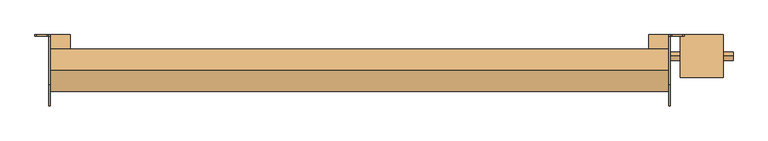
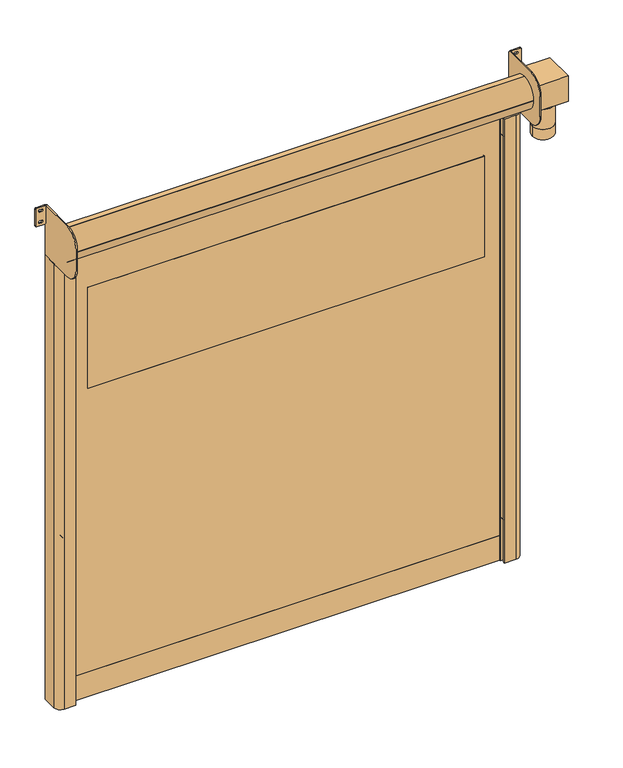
"""IFC4 building model written with IfcOpenShell, lengths in millimetres: door geometry, DO_WPB_Dynamicroll_BMP : Dynamicroll One."""

import ifcopenshell
import ifcopenshell.guid

model = None  # the IFC model being written
_history = None  # IfcOwnerHistory: only IFC2X3 demands one
_inside = {}  # id of a spatial element -> (the spatial element, [elements in it])
_under = {}  # id of a project, library or spatial element -> (it, [spatial elements below it])
_declared = {}  # id of a project -> (the project, [libraries it declares])
_typed = {}  # id of a type object -> (the type object, [elements of that type])
_made_of = {}  # id of a material, layer set ... -> (it, [elements and type objects made of it])


def new_model(schema):
    """Start an empty IFC model of exactly this schema.

    Asked for "IFC4X3", IfcOpenShell would pick the latest addendum, in which some entities
    have other attributes; the version numbers below select the first issue.
    IFC2X3 requires an IfcOwnerHistory on every rooted entity: one is made here for all.
    """
    global model, _history
    if schema == "IFC4X3":
        model = ifcopenshell.file(schema_version=(4, 3, 0, 0))
    else:
        model = ifcopenshell.file(schema=schema)
    _inside.clear()
    _under.clear()
    _declared.clear()
    _typed.clear()
    _made_of.clear()
    _history = None
    if model.schema == "IFC2X3":
        org = make("IfcOrganization", Name="unknown")
        user = make(
            "IfcPersonAndOrganization",
            ThePerson=make("IfcPerson", FamilyName="unknown"),
            TheOrganization=org,
        )
        app = make(
            "IfcApplication",
            ApplicationDeveloper=org,
            Version="unknown",
            ApplicationFullName="unknown",
            ApplicationIdentifier="unknown",
        )
        _history = make(
            "IfcOwnerHistory",
            OwningUser=user,
            OwningApplication=app,
            ChangeAction="ADDED",
            CreationDate=0,
        )
    return model


def make(cls, **values):
    """One entity of the class cls with the attributes given. An attribute that is None is left unset."""
    return model.create_entity(
        cls, **{name: value for name, value in values.items() if value is not None}
    )


def rooted(cls, **values):
    """An entity with a GlobalId (a new one), such as an element, a storey or a relation."""
    return make(cls, GlobalId=ifcopenshell.guid.new(), OwnerHistory=_history, **values)


def si_unit(unit_type, name, prefix=None):
    """IfcSIUnit, for example si_unit("LENGTHUNIT", "METRE", prefix="MILLI")."""
    return make("IfcSIUnit", UnitType=unit_type, Prefix=prefix, Name=name)


def assignment(units):
    """IfcUnitAssignment: the units of a project."""
    return None if units is None else make("IfcUnitAssignment", Units=units)


def point(xyz):
    """IfcCartesianPoint."""
    return None if xyz is None else make("IfcCartesianPoint", Coordinates=xyz)


def direction(xyz):
    """IfcDirection."""
    return None if xyz is None else make("IfcDirection", DirectionRatios=xyz)


def frame(location, z_axis=None, x_axis=None):
    """IfcAxis2Placement3D, a coordinate frame: its origin and axes. An axis left out is left unset."""
    return make(
        "IfcAxis2Placement3D",
        Location=point(location),
        Axis=direction(z_axis),
        RefDirection=direction(x_axis),
    )


def frame_2d(location, x_axis=None):
    """IfcAxis2Placement2D, a coordinate frame in the plane: its origin and x axis."""
    return make(
        "IfcAxis2Placement2D", Location=point(location), RefDirection=direction(x_axis)
    )


def origin():
    """The frame at (0, 0, 0) with its axes left unset."""
    return frame((0.0, 0.0, 0.0))


def origin_with_axes():
    """The frame at (0, 0, 0) with the z axis (0, 0, 1) and the x axis (1, 0, 0) written out."""
    return frame((0.0, 0.0, 0.0), z_axis=(0.0, 0.0, 1.0), x_axis=(1.0, 0.0, 0.0))


def place(relative_to, where):
    """IfcLocalPlacement: puts the frame where relative to a parent placement (None: the world)."""
    return make(
        "IfcLocalPlacement", PlacementRelTo=relative_to, RelativePlacement=where
    )


def context(
    kind, dimensions, precision=None, world=None, true_north=None, identifier=None
):
    """IfcGeometricRepresentationContext, for example the 3D "Model" context."""
    return make(
        "IfcGeometricRepresentationContext",
        ContextIdentifier=identifier,
        ContextType=kind,
        CoordinateSpaceDimension=dimensions,
        Precision=precision,
        WorldCoordinateSystem=world,
        TrueNorth=true_north,
    )


def project(units=None, contexts=None):
    """IfcProject with its units and contexts."""
    return rooted(
        "IfcProject",
        Name="project",
        RepresentationContexts=contexts,
        UnitsInContext=assignment(units),
    )


def spatial(cls, under=None, at=None, **own):
    """A site, building, storey or space (cls), placed at a placement, below another one or the project."""
    s = rooted(cls, ObjectPlacement=at, **own)
    if under is not None:
        _under.setdefault(under.id(), (under, []))[1].append(s)
    return s


def polyline(points):
    """IfcPolyline through the points."""
    return make("IfcPolyline", Points=[point(p) for p in points])


def circle_curve(where, radius):
    """IfcCircle in the frame where."""
    return make("IfcCircle", Position=where, Radius=radius)


def trimmed(basis, trim1, trim2, sense, master):
    """IfcTrimmedCurve: the piece of a basis curve between two trims."""
    return make(
        "IfcTrimmedCurve",
        BasisCurve=basis,
        Trim1=trim1,
        Trim2=trim2,
        SenseAgreement=sense,
        MasterRepresentation=master,
    )


def segment(curve, same_sense, transition):
    """IfcCompositeCurveSegment."""
    return make(
        "IfcCompositeCurveSegment",
        Transition=transition,
        SameSense=same_sense,
        ParentCurve=curve,
    )


def composite_curve(segments, self_intersect=None):
    """IfcCompositeCurve: segments joined end to end."""
    return make("IfcCompositeCurve", Segments=segments, SelfIntersect=self_intersect)


def outline(outer, holes=None, kind="AREA"):
    """IfcArbitraryClosedProfileDef: a profile drawn as a closed curve; with holes, ...WithVoids."""
    if holes is None:
        return make("IfcArbitraryClosedProfileDef", ProfileType=kind, OuterCurve=outer)
    return make(
        "IfcArbitraryProfileDefWithVoids",
        ProfileType=kind,
        OuterCurve=outer,
        InnerCurves=holes,
    )


def extrude(swept, where, along, depth):
    """IfcExtrudedAreaSolid: the profile swept, set in the frame where, extruded along a direction by depth."""
    return make(
        "IfcExtrudedAreaSolid",
        SweptArea=swept,
        Position=where,
        ExtrudedDirection=direction(along),
        Depth=depth,
    )


def shape(context_of_items, identifier, shape_type, items):
    """IfcShapeRepresentation: the items that make up one representation, for example the "Body"."""
    return make(
        "IfcShapeRepresentation",
        ContextOfItems=context_of_items,
        RepresentationIdentifier=identifier,
        RepresentationType=shape_type,
        Items=items,
    )


def source(mapping_origin, context_of_items, identifier, shape_type, items):
    """IfcRepresentationMap: a shape defined once, which mapped items show again and again."""
    return make(
        "IfcRepresentationMap",
        MappingOrigin=mapping_origin,
        MappedRepresentation=shape(context_of_items, identifier, shape_type, items),
    )


def transform(
    local_origin,
    x_axis=None,
    y_axis=None,
    z_axis=None,
    scale=None,
    scale2=None,
    scale3=None,
    uniform=True,
):
    """IfcCartesianTransformationOperator3D, or its non-uniform kind. x_axis, y_axis, z_axis: its Axis1, 2, 3."""
    if uniform:
        return make(
            "IfcCartesianTransformationOperator3D",
            Axis1=direction(x_axis),
            Axis2=direction(y_axis),
            LocalOrigin=point(local_origin),
            Scale=scale,
            Axis3=direction(z_axis),
        )
    return make(
        "IfcCartesianTransformationOperator3DnonUniform",
        Axis1=direction(x_axis),
        Axis2=direction(y_axis),
        LocalOrigin=point(local_origin),
        Scale=scale,
        Axis3=direction(z_axis),
        Scale2=scale2,
        Scale3=scale3,
    )


def mapped(mapping_source, mapping_target):
    """IfcMappedItem: shows the shape of a source again, moved by a transform."""
    return make(
        "IfcMappedItem", MappingSource=mapping_source, MappingTarget=mapping_target
    )


def made_of(thing, what):
    """Note that an element or type object is made of a material, layer set ...; save() writes the relation."""
    if what is not None:
        _made_of.setdefault(what.id(), (what, []))[1].append(thing)
    return thing


def element(
    cls,
    number,
    at=None,
    inside=None,
    cuts=None,
    type_object=None,
    material=None,
    context=None,
    identifier="Body",
    shape_type=None,
    held_by="IfcProductDefinitionShape",
    body=None,
    shapes=None,
    **own,
):
    """One element of the class cls, such as IfcWall. Its Tag is "e" and its number.

    at: its placement. inside: the storey or other place that contains it. cuts: it is an
    opening in that element (IfcRelVoidsElement). A single representation is given by context,
    identifier, shape_type and body (its items); several are given by shapes. held_by: the class
    of the entity that holds the representations. save() writes the other relations.
    """
    e = rooted(cls, Tag="e%d" % number, ObjectPlacement=at, **own)
    if body is not None:
        shapes = [shape(context, identifier, shape_type, body)]
    if shapes is not None:
        e.Representation = make(held_by, Representations=shapes)
    if inside is not None:
        _inside.setdefault(inside.id(), (inside, []))[1].append(e)
    if cuts is not None:
        rooted(
            "IfcRelVoidsElement", RelatingBuildingElement=cuts, RelatedOpeningElement=e
        )
    if type_object is not None:
        _typed.setdefault(type_object.id(), (type_object, []))[1].append(e)
    return made_of(e, material)


def aggregate(whole, parts):
    """IfcRelAggregates: a whole, such as a stair, and the parts it consists of."""
    return rooted("IfcRelAggregates", RelatingObject=whole, RelatedObjects=parts)


def save(model, path):
    """Write the relations noted so far, then the file.

    IfcRelAggregates (storeys below a building ...), IfcRelContainedInSpatialStructure (elements
    in a storey), IfcRelDefinesByType, IfcRelAssociatesMaterial and IfcRelDeclares: one each for
    every whole, place, type object, material and project.
    """
    for whole, parts in _under.values():
        aggregate(whole, parts)
    for where, things in _inside.values():
        rooted(
            "IfcRelContainedInSpatialStructure",
            RelatedElements=things,
            RelatingStructure=where,
        )
    for kind, things in _typed.values():
        rooted("IfcRelDefinesByType", RelatedObjects=things, RelatingType=kind)
    for what, things in _made_of.values():
        rooted("IfcRelAssociatesMaterial", RelatedObjects=things, RelatingMaterial=what)
    for by, libraries in _declared.values():
        rooted("IfcRelDeclares", RelatingContext=by, RelatedDefinitions=libraries)
    model.write(path)


def plane_surface(at):
    """IfcPlane: the flat surface through the origin of the frame at, square to its z axis."""
    return make("IfcPlane", Position=at)


def cylinder_surface(at, radius):
    """IfcCylindricalSurface: all points at the distance radius from the z axis of the frame at."""
    return make("IfcCylindricalSurface", Position=at, Radius=radius)


def advanced_brep(points, edges, surfaces, faces):
    """IfcAdvancedBrep: a solid bounded by faces that lie on surfaces and meet in shared edges.

    An edge is (start, end): straight between two places in points (the first is 0);
    or (start, end, curve); or (start, end, curve, False) where it runs against its curve.
    A face is (place in surfaces, loops), or (place, loops, False) where it looks against
    its surface's normal. A loop lists edges by number (the first is 1), with a minus sign
    where the edge is run from its end to its start. The first loop is the outer one.
    """
    corners = [point(p) for p in points]
    vertices = [make("IfcVertexPoint", VertexGeometry=c) for c in corners]
    made = []
    for start, end, *more in edges:
        made.append(
            make(
                "IfcEdgeCurve",
                EdgeStart=vertices[start],
                EdgeEnd=vertices[end],
                EdgeGeometry=more[0] if more else make("IfcPolyline", Points=[corners[start], corners[end]]),
                SameSense=more[1] if len(more) > 1 else True,
            )
        )
    hull = []
    for where, loops, *sense in faces:
        bounds = []
        for j, loop in enumerate(loops):
            ring = [make("IfcOrientedEdge", EdgeElement=made[abs(k) - 1], Orientation=k > 0) for k in loop]
            bounds.append(
                make(
                    "IfcFaceOuterBound" if j == 0 else "IfcFaceBound",
                    Bound=make("IfcEdgeLoop", EdgeList=ring),
                    Orientation=True,
                )
            )
        hull.append(make("IfcAdvancedFace", Bounds=bounds, FaceSurface=surfaces[where], SameSense=sense[0] if sense else True))
    return make("IfcAdvancedBrep", Outer=make("IfcClosedShell", CfsFaces=hull))


def door_15c32364(model_context):
    return source(origin(), model_context, "Body", "SolidModel", [
        extrude(outline(composite_curve([segment(trimmed(circle_curve(frame_2d((1416.6666667, 1024.0)), 6.0), [point((1422.6666667, 1024.0))], [point((1410.6666667, 1024.0))], False, "CARTESIAN"), True, "CONTINUOUS"), segment(polyline([(1410.6666667, 1024.0), (1410.6666667, 1042.0)]), True, "CONTINUOUS"), segment(trimmed(circle_curve(frame_2d((1416.6666667, 1042.0)), 6.0), [point((1410.6666667, 1042.0))], [point((1422.6666667, 1042.0))], False, "CARTESIAN"), True, "CONTINUOUS"), segment(polyline([(1422.6666667, 1042.0), (1422.6666667, 1024.0)]), True, "CONTINUOUS")], self_intersect=False)), frame((0.0, -20.0, 0.0), z_axis=(0.0, 1.0, 0.0), x_axis=(0.0, 0.0, 1.0)), (0.0, 0.0, 1.0), 20.0),
        extrude(outline(composite_curve([segment(trimmed(circle_curve(frame_2d((783.3333333, 1024.0)), 6.0), [point((789.3333333, 1024.0))], [point((777.3333333, 1024.0))], False, "CARTESIAN"), True, "CONTINUOUS"), segment(polyline([(777.3333333, 1024.0), (777.3333333, 1042.0)]), True, "CONTINUOUS"), segment(trimmed(circle_curve(frame_2d((783.3333333, 1042.0)), 6.0), [point((777.3333333, 1042.0))], [point((789.3333333, 1042.0))], False, "CARTESIAN"), True, "CONTINUOUS"), segment(polyline([(789.3333333, 1042.0), (789.3333333, 1024.0)]), True, "CONTINUOUS")], self_intersect=False)), frame((0.0, -20.0, 0.0), z_axis=(0.0, 1.0, 0.0), x_axis=(0.0, 0.0, 1.0)), (0.0, 0.0, 1.0), 20.0),
        extrude(outline(composite_curve([segment(trimmed(circle_curve(frame_2d((2050.0, 1024.0)), 6.0), [point((2056.0, 1024.0))], [point((2044.0, 1024.0))], False, "CARTESIAN"), True, "CONTINUOUS"), segment(polyline([(2044.0, 1024.0), (2044.0, 1042.0)]), True, "CONTINUOUS"), segment(trimmed(circle_curve(frame_2d((2050.0, 1042.0)), 6.0), [point((2044.0, 1042.0))], [point((2056.0, 1042.0))], False, "CARTESIAN"), True, "CONTINUOUS"), segment(polyline([(2056.0, 1042.0), (2056.0, 1024.0)]), True, "CONTINUOUS")], self_intersect=False)), frame((0.0, -20.0, 0.0), z_axis=(0.0, 1.0, 0.0), x_axis=(0.0, 0.0, 1.0)), (0.0, 0.0, 1.0), 20.0),
        extrude(outline(composite_curve([segment(trimmed(circle_curve(frame_2d((150.0, 1024.0)), 6.0), [point((156.0, 1024.0))], [point((144.0, 1024.0))], False, "CARTESIAN"), True, "CONTINUOUS"), segment(polyline([(144.0, 1024.0), (144.0, 1042.0)]), True, "CONTINUOUS"), segment(trimmed(circle_curve(frame_2d((150.0, 1042.0)), 6.0), [point((144.0, 1042.0))], [point((156.0, 1042.0))], False, "CARTESIAN"), True, "CONTINUOUS"), segment(polyline([(156.0, 1042.0), (156.0, 1024.0)]), True, "CONTINUOUS")], self_intersect=False)), frame((0.0, -20.0, 0.0), z_axis=(0.0, 1.0, 0.0), x_axis=(0.0, 0.0, 1.0)), (0.0, 0.0, 1.0), 20.0),
        extrude(outline(composite_curve([segment(polyline([(1422.6666667, -1024.0), (1422.6666667, -1042.0)]), True, "CONTINUOUS"), segment(trimmed(circle_curve(frame_2d((1416.6666667, -1042.0)), 6.0), [point((1422.6666667, -1042.0))], [point((1410.6666667, -1042.0))], False, "CARTESIAN"), True, "CONTINUOUS"), segment(polyline([(1410.6666667, -1042.0), (1410.6666667, -1024.0)]), True, "CONTINUOUS"), segment(trimmed(circle_curve(frame_2d((1416.6666667, -1024.0)), 6.0), [point((1410.6666667, -1024.0))], [point((1422.6666667, -1024.0))], False, "CARTESIAN"), True, "CONTINUOUS")], self_intersect=False)), frame((0.0, -20.0, 0.0), z_axis=(0.0, 1.0, 0.0), x_axis=(0.0, 0.0, 1.0)), (0.0, 0.0, 1.0), 20.0),
        extrude(outline(composite_curve([segment(polyline([(789.3333333, -1024.0), (789.3333333, -1042.0)]), True, "CONTINUOUS"), segment(trimmed(circle_curve(frame_2d((783.3333333, -1042.0)), 6.0), [point((789.3333333, -1042.0))], [point((777.3333333, -1042.0))], False, "CARTESIAN"), True, "CONTINUOUS"), segment(polyline([(777.3333333, -1042.0), (777.3333333, -1024.0)]), True, "CONTINUOUS"), segment(trimmed(circle_curve(frame_2d((783.3333333, -1024.0)), 6.0), [point((777.3333333, -1024.0))], [point((789.3333333, -1024.0))], False, "CARTESIAN"), True, "CONTINUOUS")], self_intersect=False)), frame((0.0, -20.0, 0.0), z_axis=(0.0, 1.0, 0.0), x_axis=(0.0, 0.0, 1.0)), (0.0, 0.0, 1.0), 20.0),
        extrude(outline(composite_curve([segment(polyline([(2056.0, -1024.0), (2056.0, -1042.0)]), True, "CONTINUOUS"), segment(trimmed(circle_curve(frame_2d((2050.0, -1042.0)), 6.0), [point((2056.0, -1042.0))], [point((2044.0, -1042.0))], False, "CARTESIAN"), True, "CONTINUOUS"), segment(polyline([(2044.0, -1042.0), (2044.0, -1024.0)]), True, "CONTINUOUS"), segment(trimmed(circle_curve(frame_2d((2050.0, -1024.0)), 6.0), [point((2044.0, -1024.0))], [point((2056.0, -1024.0))], False, "CARTESIAN"), True, "CONTINUOUS")], self_intersect=False)), frame((0.0, -20.0, 0.0), z_axis=(0.0, 1.0, 0.0), x_axis=(0.0, 0.0, 1.0)), (0.0, 0.0, 1.0), 20.0),
        extrude(outline(composite_curve([segment(polyline([(156.0, -1024.0), (156.0, -1042.0)]), True, "CONTINUOUS"), segment(trimmed(circle_curve(frame_2d((150.0, -1042.0)), 6.0), [point((156.0, -1042.0))], [point((144.0, -1042.0))], False, "CARTESIAN"), True, "CONTINUOUS"), segment(polyline([(144.0, -1042.0), (144.0, -1024.0)]), True, "CONTINUOUS"), segment(trimmed(circle_curve(frame_2d((150.0, -1024.0)), 6.0), [point((144.0, -1024.0))], [point((156.0, -1024.0))], False, "CARTESIAN"), True, "CONTINUOUS")], self_intersect=False)), frame((0.0, -20.0, 0.0), z_axis=(0.0, 1.0, 0.0), x_axis=(0.0, 0.0, 1.0)), (0.0, 0.0, 1.0), 20.0),
        extrude(outline(composite_curve([segment(trimmed(circle_curve(frame_2d((1526.0, 929.0)), 1.0), [point((1525.0, 929.0))], [point((1526.0, 930.0))], False, "CARTESIAN"), True, "CONTINUOUS"), segment(polyline([(1526.0, 930.0), (2024.0, 930.0)]), True, "CONTINUOUS"), segment(trimmed(circle_curve(frame_2d((2024.0, 929.0)), 1.0), [point((2024.0, 930.0))], [point((2025.0, 929.0))], False, "CARTESIAN"), True, "CONTINUOUS"), segment(polyline([(2025.0, 929.0), (2025.0, -929.0)]), True, "CONTINUOUS"), segment(trimmed(circle_curve(frame_2d((2024.0, -929.0)), 1.0), [point((2025.0, -929.0))], [point((2024.0, -930.0))], False, "CARTESIAN"), True, "CONTINUOUS"), segment(polyline([(2024.0, -930.0), (1526.0, -930.0)]), True, "CONTINUOUS"), segment(trimmed(circle_curve(frame_2d((1526.0, -929.0)), 1.0), [point((1526.0, -930.0))], [point((1525.0, -929.0))], False, "CARTESIAN"), True, "CONTINUOUS"), segment(polyline([(1525.0, -929.0), (1525.0, 929.0)]), True, "CONTINUOUS")], self_intersect=False)), frame((0.0, -68.5, 0.0), z_axis=(0.0, 1.0, 0.0), x_axis=(0.0, 0.0, 1.0)), (0.0, 0.0, 1.0), 7.0),
        extrude(outline(polyline([(120.0, -1012.0), (120.0, 1012.0), (2325.0, 1012.0), (2325.0, -1012.0), (120.0, -1012.0)]), holes=[composite_curve([segment(trimmed(circle_curve(frame_2d((1526.0, 929.0)), 1.0), [point((1526.0, 930.0))], [point((1525.0, 929.0))], True, "CARTESIAN"), True, "CONTINUOUS"), segment(polyline([(1525.0, 929.0), (1525.0, -929.0)]), True, "CONTINUOUS"), segment(trimmed(circle_curve(frame_2d((1526.0, -929.0)), 1.0), [point((1525.0, -929.0))], [point((1526.0, -930.0))], True, "CARTESIAN"), True, "CONTINUOUS"), segment(polyline([(1526.0, -930.0), (2024.0, -930.0)]), True, "CONTINUOUS"), segment(trimmed(circle_curve(frame_2d((2024.0, -929.0)), 1.0), [point((2024.0, -930.0))], [point((2025.0, -929.0))], True, "CARTESIAN"), True, "CONTINUOUS"), segment(polyline([(2025.0, -929.0), (2025.0, 929.0)]), True, "CONTINUOUS"), segment(trimmed(circle_curve(frame_2d((2024.0, 929.0)), 1.0), [point((2025.0, 929.0))], [point((2024.0, 930.0))], True, "CARTESIAN"), True, "CONTINUOUS"), segment(polyline([(2024.0, 930.0), (1526.0, 930.0)]), True, "CONTINUOUS")], self_intersect=False)]), frame((0.0, -68.5, 0.0), z_axis=(0.0, 1.0, 0.0), x_axis=(0.0, 0.0, 1.0)), (0.0, 0.0, 1.0), 7.0),
        extrude(outline(polyline([(-1012.0, -59.5), (1012.0, -59.5), (1012.0, -70.5), (-1012.0, -70.5), (-1012.0, -59.5)])), origin_with_axes(), (0.0, 0.0, 1.0), 120.0),
        extrude(outline(composite_curve([segment(trimmed(circle_curve(frame_2d((2363.75, 1095.75)), 5.75), [point((2363.75, 1090.0))], [point((2358.0, 1095.75))], False, "CARTESIAN"), True, "CONTINUOUS"), segment(polyline([(2358.0, 1095.75), (2358.0, 1133.25)]), True, "CONTINUOUS"), segment(trimmed(circle_curve(frame_2d((2363.75, 1133.25)), 5.75), [point((2358.0, 1133.25))], [point((2363.75, 1139.0))], False, "CARTESIAN"), True, "CONTINUOUS"), segment(polyline([(2363.75, 1139.0), (2444.25, 1139.0)]), True, "CONTINUOUS"), segment(trimmed(circle_curve(frame_2d((2444.25, 1133.25)), 5.75), [point((2444.25, 1139.0))], [point((2450.0, 1133.25))], False, "CARTESIAN"), True, "CONTINUOUS"), segment(polyline([(2450.0, 1133.25), (2450.0, 1095.75)]), True, "CONTINUOUS"), segment(trimmed(circle_curve(frame_2d((2444.25, 1095.75)), 5.75), [point((2450.0, 1095.75))], [point((2444.25, 1090.0))], False, "CARTESIAN"), True, "CONTINUOUS"), segment(polyline([(2444.25, 1090.0), (2363.75, 1090.0)]), True, "CONTINUOUS")], self_intersect=False), holes=[composite_curve([segment(trimmed(circle_curve(frame_2d((2431.5, 1118.75)), 5.75), [point((2437.25, 1118.75))], [point((2425.75, 1118.75))], True, "CARTESIAN"), True, "CONTINUOUS"), segment(polyline([(2425.75, 1118.75), (2425.75, 1110.25)]), True, "CONTINUOUS"), segment(trimmed(circle_curve(frame_2d((2431.5, 1110.25)), 5.75), [point((2425.75, 1110.25))], [point((2437.25, 1110.25))], True, "CARTESIAN"), True, "CONTINUOUS"), segment(polyline([(2437.25, 1110.25), (2437.25, 1118.75)]), True, "CONTINUOUS")], self_intersect=False), composite_curve([segment(trimmed(circle_curve(frame_2d((2376.5, 1118.75)), 5.75), [point((2382.25, 1118.75))], [point((2370.75, 1118.75))], True, "CARTESIAN"), True, "CONTINUOUS"), segment(polyline([(2370.75, 1118.75), (2370.75, 1110.25)]), True, "CONTINUOUS"), segment(trimmed(circle_curve(frame_2d((2376.5, 1110.25)), 5.75), [point((2370.75, 1110.25))], [point((2382.25, 1110.25))], True, "CARTESIAN"), True, "CONTINUOUS"), segment(polyline([(2382.25, 1110.25), (2382.25, 1118.75)]), True, "CONTINUOUS")], self_intersect=False)]), frame((0.0, -5.0, 0.0), z_axis=(0.0, 1.0, 0.0), x_axis=(0.0, 0.0, 1.0)), (0.0, 0.0, 1.0), 5.0),
        extrude(outline(composite_curve([segment(trimmed(circle_curve(frame_2d((2363.75, -1133.25)), 5.75), [point((2363.75, -1139.0))], [point((2358.0, -1133.25))], False, "CARTESIAN"), True, "CONTINUOUS"), segment(polyline([(2358.0, -1133.25), (2358.0, -1095.75)]), True, "CONTINUOUS"), segment(trimmed(circle_curve(frame_2d((2363.75, -1095.75)), 5.75), [point((2358.0, -1095.75))], [point((2363.75, -1090.0))], False, "CARTESIAN"), True, "CONTINUOUS"), segment(polyline([(2363.75, -1090.0), (2444.25, -1090.0)]), True, "CONTINUOUS"), segment(trimmed(circle_curve(frame_2d((2444.25, -1095.75)), 5.75), [point((2444.25, -1090.0))], [point((2450.0, -1095.75))], False, "CARTESIAN"), True, "CONTINUOUS"), segment(polyline([(2450.0, -1095.75), (2450.0, -1133.25)]), True, "CONTINUOUS"), segment(trimmed(circle_curve(frame_2d((2444.25, -1133.25)), 5.75), [point((2450.0, -1133.25))], [point((2444.25, -1139.0))], False, "CARTESIAN"), True, "CONTINUOUS"), segment(polyline([(2444.25, -1139.0), (2363.75, -1139.0)]), True, "CONTINUOUS")], self_intersect=False), holes=[composite_curve([segment(trimmed(circle_curve(frame_2d((2431.5, -1110.25)), 5.75), [point((2437.25, -1110.25))], [point((2425.75, -1110.25))], True, "CARTESIAN"), True, "CONTINUOUS"), segment(polyline([(2425.75, -1110.25), (2425.75, -1118.75)]), True, "CONTINUOUS"), segment(trimmed(circle_curve(frame_2d((2431.5, -1118.75)), 5.75), [point((2425.75, -1118.75))], [point((2437.25, -1118.75))], True, "CARTESIAN"), True, "CONTINUOUS"), segment(polyline([(2437.25, -1118.75), (2437.25, -1110.25)]), True, "CONTINUOUS")], self_intersect=False), composite_curve([segment(trimmed(circle_curve(frame_2d((2376.5, -1110.25)), 5.75), [point((2382.25, -1110.25))], [point((2370.75, -1110.25))], True, "CARTESIAN"), True, "CONTINUOUS"), segment(polyline([(2370.75, -1110.25), (2370.75, -1118.75)]), True, "CONTINUOUS"), segment(trimmed(circle_curve(frame_2d((2376.5, -1118.75)), 5.75), [point((2370.75, -1118.75))], [point((2382.25, -1118.75))], True, "CARTESIAN"), True, "CONTINUOUS"), segment(polyline([(2382.25, -1118.75), (2382.25, -1110.25)]), True, "CONTINUOUS")], self_intersect=False)]), frame((0.0, -5.0, 0.0), z_axis=(0.0, 1.0, 0.0), x_axis=(0.0, 0.0, 1.0)), (0.0, 0.0, 1.0), 5.0),
        extrude(outline(composite_curve([segment(trimmed(circle_curve(frame_2d((1200.0, -75.0)), 37.5), [point((1237.5, -75.0))], [point((1162.5, -75.0))], False, "CARTESIAN"), True, "CONTINUOUS"), segment(trimmed(circle_curve(frame_2d((1200.0, -75.0)), 37.5), [point((1162.5, -75.0))], [point((1237.5, -75.0))], False, "CARTESIAN"), True, "CONTINUOUS")], self_intersect=False)), frame((0.0, 0.0, 2200.0), z_axis=(0.0, 0.0, 1.0), x_axis=(1.0, 0.0, 0.0)), (0.0, 0.0, 1.0), 25.0),
        extrude(outline(composite_curve([segment(trimmed(circle_curve(frame_2d((1200.0, -75.0)), 50.0), [point((1250.0, -75.0))], [point((1150.0, -75.0))], False, "CARTESIAN"), True, "CONTINUOUS"), segment(trimmed(circle_curve(frame_2d((1200.0, -75.0)), 50.0), [point((1150.0, -75.0))], [point((1250.0, -75.0))], False, "CARTESIAN"), True, "CONTINUOUS")], self_intersect=False)), frame((0.0, 0.0, 2100.0), z_axis=(0.0, 0.0, 1.0), x_axis=(1.0, 0.0, 0.0)), (0.0, 0.0, 1.0), 100.0),
        extrude(outline(composite_curve([segment(trimmed(circle_curve(frame_2d((1200.0, -75.0)), 50.0), [point((1250.0, -75.0))], [point((1150.0, -75.0))], False, "CARTESIAN"), True, "CONTINUOUS"), segment(trimmed(circle_curve(frame_2d((1200.0, -75.0)), 50.0), [point((1150.0, -75.0))], [point((1250.0, -75.0))], False, "CARTESIAN"), True, "CONTINUOUS")], self_intersect=False)), frame((0.0, 0.0, 2050.0), z_axis=(0.0, 0.0, 1.0), x_axis=(1.0, 0.0, 0.0)), (0.0, 0.0, 1.0), 50.0),
        extrude(outline(composite_curve([segment(polyline([(-1090.0, 0.0), (-1015.0, 0.0), (-1015.0, -49.2857143), (-1035.0, -55.0), (-1000.0, -55.0), (-1000.0, -61.5), (-1020.0, -61.5), (-1020.0, -68.5), (-1000.0, -68.5), (-1000.0, -75.0), (-1035.0, -75.0), (-1035.0, -90.0), (-1005.0, -90.0), (-1005.0, -100.0), (-1060.0, -100.0)]), True, "CONTINUOUS"), segment(trimmed(circle_curve(frame_2d((-1060.0, -70.0)), 30.0), [point((-1060.0, -100.0))], [point((-1090.0, -70.0))], False, "CARTESIAN"), True, "CONTINUOUS"), segment(polyline([(-1090.0, -70.0), (-1090.0, 0.0)]), True, "CONTINUOUS")], self_intersect=False)), origin_with_axes(), (0.0, 0.0, 1.0), 2200.0),
        extrude(outline(composite_curve([segment(polyline([(1090.0, 0.0), (1090.0, -70.0)]), True, "CONTINUOUS"), segment(trimmed(circle_curve(frame_2d((1060.0, -70.0)), 30.0), [point((1090.0, -70.0))], [point((1060.0, -100.0))], False, "CARTESIAN"), True, "CONTINUOUS"), segment(polyline([(1060.0, -100.0), (1005.0, -100.0), (1005.0, -90.0), (1035.0, -90.0), (1035.0, -75.0), (1000.0, -75.0), (1000.0, -68.5), (1020.0, -68.5), (1020.0, -61.5), (1000.0, -61.5), (1000.0, -55.0), (1035.0, -55.0), (1015.0, -49.2857143), (1015.0, 0.0), (1090.0, 0.0)]), True, "CONTINUOUS")], self_intersect=False)), origin_with_axes(), (0.0, 0.0, 1.0), 2200.0),
        advanced_brep(
        [(1125.0, -150.0, 2350.0), (1275.0, -150.0, 2350.0), (1275.0, 0.0, 2350.0), (1125.0, 0.0, 2350.0), (1125.0, -150.0, 2225.0), (1275.0, -150.0, 2225.0), (1275.0, 0.0, 2225.0), (1275.0, -75.0, 2272.5), (1275.0, -75.0, 2302.5), (1125.0, 0.0, 2225.0), (1125.0, -75.0, 2302.5), (1125.0, -75.0, 2272.5), (1090.0, -75.0, 2272.5), (1090.0, -75.0, 2302.5), (1310.0, -75.0, 2272.5), (1310.0, -75.0, 2302.5)],
        [
            (0, 1),
            (1, 2),
            (2, 3),
            (3, 0),
            (4, 5),
            (5, 1),
            (0, 4),
            (5, 6),
            (6, 2),
            (7, 8, circle_curve(frame((1275.0, -75.0, 2287.5), z_axis=(-1.0, 0.0, 0.0), x_axis=(0.0, 0.0, 1.0)), 15.0)),
            (8, 7, circle_curve(frame((1275.0, -75.0, 2287.5), z_axis=(-1.0, 0.0, 0.0), x_axis=(0.0, 0.0, 1.0)), 15.0)),
            (6, 9),
            (9, 3),
            (9, 4),
            (10, 11, circle_curve(frame((1125.0, -75.0, 2287.5), z_axis=(1.0, 0.0, 0.0), x_axis=(0.0, 0.0, 1.0)), 15.0)),
            (11, 10, circle_curve(frame((1125.0, -75.0, 2287.5), z_axis=(1.0, 0.0, 0.0), x_axis=(0.0, 0.0, 1.0)), 15.0)),
            (12, 13, circle_curve(frame((1090.0, -75.0, 2287.5), z_axis=(-1.0, 0.0, 0.0), x_axis=(0.0, 0.0, 1.0)), 15.0)),
            (13, 12, circle_curve(frame((1090.0, -75.0, 2287.5), z_axis=(-1.0, 0.0, 0.0), x_axis=(0.0, 0.0, 1.0)), 15.0)),
            (12, 11),
            (10, 13),
            (14, 15, circle_curve(frame((1310.0, -75.0, 2287.5), z_axis=(-1.0, 0.0, 0.0), x_axis=(0.0, 0.0, 1.0)), 15.0)),
            (15, 8),
            (7, 14),
            (15, 14, circle_curve(frame((1310.0, -75.0, 2287.5), z_axis=(-1.0, 0.0, 0.0), x_axis=(0.0, 0.0, 1.0)), 15.0)),
        ],
        [
            plane_surface(frame((1200.0, 0.0, 2350.0), z_axis=(0.0, 0.0, 1.0), x_axis=(0.0, -1.0, 0.0))),
            plane_surface(frame((1275.0, -150.0, 2225.0), z_axis=(0.0, -1.0, 0.0), x_axis=(0.0, 0.0, 1.0))),
            plane_surface(frame((1275.0, 0.0, 2225.0), z_axis=(1.0, 0.0, 0.0), x_axis=(0.0, 0.0, 1.0))),
            plane_surface(frame((1125.0, 0.0, 2225.0), z_axis=(0.0, 1.0, 0.0), x_axis=(0.0, 0.0, 1.0))),
            plane_surface(frame((1125.0, -150.0, 2225.0), z_axis=(-1.0, 0.0, 0.0), x_axis=(0.0, 0.0, 1.0))),
            plane_surface(frame((1200.0, 0.0, 2225.0), z_axis=(0.0, 0.0, -1.0), x_axis=(0.0, -1.0, 0.0))),
            plane_surface(frame((1090.0, 0.0, 2287.5), z_axis=(-1.0, 0.0, 0.0), x_axis=(0.0, -1.0, 0.0))),
            cylinder_surface(frame((1090.0, -75.0, 2287.5), z_axis=(-1.0, 0.0, 0.0), x_axis=(0.0, 0.0, 1.0)), 15.0),
            plane_surface(frame((1310.0, 0.0, 2287.5), z_axis=(1.0, 0.0, 0.0), x_axis=(0.0, -1.0, 0.0))),
        ],
        [
            (0, [[1, 2, 3, 4]]),
            (1, [[5, 6, -1, 7]]),
            (2, [[8, 9, -2, -6], [10, 11]]),
            (3, [[12, 13, -3, -9]]),
            (4, [[14, -7, -4, -13], [15, 16]]),
            (5, [[-14, -12, -8, -5]]),
            (6, [[17, 18]]),
            (7, [[-17, 19, -15, 20]]),
            (7, [[21, 22, -10, 23]]),
            (7, [[-18, -20, -16, -19]]),
            (7, [[24, -23, -11, -22]]),
            (8, [[-24, -21]]),
        ],
    ),
        extrude(outline(composite_curve([segment(trimmed(circle_curve(frame_2d((-5.0, 2205.0)), 5.0), [point((0.0, 2205.0))], [point((-5.0, 2200.0))], False, "CARTESIAN"), True, "CONTINUOUS"), segment(polyline([(-5.0, 2200.0), (-175.0, 2200.0)]), True, "CONTINUOUS"), segment(trimmed(circle_curve(frame_2d((-175.0, 2275.0)), 75.0), [point((-175.0, 2200.0))], [point((-250.0, 2275.0))], False, "CARTESIAN"), True, "CONTINUOUS"), segment(polyline([(-250.0, 2275.0), (-250.0, 2375.0)]), True, "CONTINUOUS"), segment(trimmed(circle_curve(frame_2d((-175.0, 2375.0)), 75.0), [point((-250.0, 2375.0))], [point((-175.0, 2450.0))], False, "CARTESIAN"), True, "CONTINUOUS"), segment(polyline([(-175.0, 2450.0), (-5.0, 2450.0)]), True, "CONTINUOUS"), segment(trimmed(circle_curve(frame_2d((-5.0, 2445.0)), 5.0), [point((-5.0, 2450.0))], [point((0.0, 2445.0))], False, "CARTESIAN"), True, "CONTINUOUS"), segment(polyline([(0.0, 2445.0), (0.0, 2205.0)]), True, "CONTINUOUS")], self_intersect=False)), frame((1085.0, 0.0, 0.0), z_axis=(1.0, 0.0, 0.0), x_axis=(0.0, 1.0, 0.0)), (0.0, 0.0, 1.0), 5.0),
        extrude(outline(composite_curve([segment(trimmed(circle_curve(frame_2d((-124.0, 2324.0)), 74.0), [point((-50.0, 2324.0))], [point((-124.0, 2250.0))], False, "CARTESIAN"), True, "CONTINUOUS"), segment(polyline([(-124.0, 2250.0), (-126.0, 2250.0)]), True, "CONTINUOUS"), segment(trimmed(circle_curve(frame_2d((-126.0, 2324.0)), 74.0), [point((-126.0, 2250.0))], [point((-200.0, 2324.0))], False, "CARTESIAN"), True, "CONTINUOUS"), segment(polyline([(-200.0, 2324.0), (-200.0, 2326.0)]), True, "CONTINUOUS"), segment(trimmed(circle_curve(frame_2d((-126.0, 2326.0)), 74.0), [point((-200.0, 2326.0))], [point((-126.0, 2400.0))], False, "CARTESIAN"), True, "CONTINUOUS"), segment(polyline([(-126.0, 2400.0), (-124.0, 2400.0)]), True, "CONTINUOUS"), segment(trimmed(circle_curve(frame_2d((-124.0, 2326.0)), 74.0), [point((-124.0, 2400.0))], [point((-50.0, 2326.0))], False, "CARTESIAN"), True, "CONTINUOUS"), segment(polyline([(-50.0, 2326.0), (-50.0, 2324.0)]), True, "CONTINUOUS")], self_intersect=False)), frame((-1085.0, 0.0, 0.0), z_axis=(1.0, 0.0, 0.0), x_axis=(0.0, 1.0, 0.0)), (0.0, 0.0, 1.0), 2170.0),
        extrude(outline(composite_curve([segment(trimmed(circle_curve(frame_2d((-5.0, 2205.0)), 5.0), [point((0.0, 2205.0))], [point((-5.0, 2200.0))], False, "CARTESIAN"), True, "CONTINUOUS"), segment(polyline([(-5.0, 2200.0), (-175.0, 2200.0)]), True, "CONTINUOUS"), segment(trimmed(circle_curve(frame_2d((-175.0, 2275.0)), 75.0), [point((-175.0, 2200.0))], [point((-250.0, 2275.0))], False, "CARTESIAN"), True, "CONTINUOUS"), segment(polyline([(-250.0, 2275.0), (-250.0, 2375.0)]), True, "CONTINUOUS"), segment(trimmed(circle_curve(frame_2d((-175.0, 2375.0)), 75.0), [point((-250.0, 2375.0))], [point((-175.0, 2450.0))], False, "CARTESIAN"), True, "CONTINUOUS"), segment(polyline([(-175.0, 2450.0), (-5.0, 2450.0)]), True, "CONTINUOUS"), segment(trimmed(circle_curve(frame_2d((-5.0, 2445.0)), 5.0), [point((-5.0, 2450.0))], [point((0.0, 2445.0))], False, "CARTESIAN"), True, "CONTINUOUS"), segment(polyline([(0.0, 2445.0), (0.0, 2205.0)]), True, "CONTINUOUS")], self_intersect=False)), frame((-1090.0, 0.0, 0.0), z_axis=(1.0, 0.0, 0.0), x_axis=(0.0, 1.0, 0.0)), (0.0, 0.0, 1.0), 5.0),
    ])


if __name__ == "__main__":
    model = new_model("IFC4")
    model_context = context("Model", 3, world=origin())
    ifc_project = project(units=[si_unit("LENGTHUNIT", "METRE", prefix="MILLI")], contexts=[model_context])
    site = spatial("IfcSite", under=ifc_project)
    building = spatial("IfcBuilding", under=site)
    placement = place(None, origin())
    door_shape = door_15c32364(model_context)
    element("IfcDoor", 1, ObjectType="DO_WPB_Dynamicroll_BMP : Dynamicroll One", at=placement, inside=building, context=model_context, shape_type="MappedRepresentation", body=[
        mapped(door_shape, transform((0.0, 0.0, 0.0), x_axis=(1.0, 0.0, 0.0), y_axis=(0.0, 1.0, 0.0), z_axis=(0.0, 0.0, 1.0))),
    ])
    save(model, "model.ifc")
